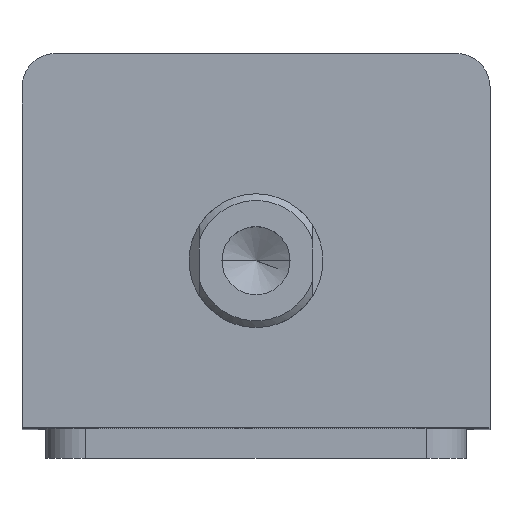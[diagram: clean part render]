
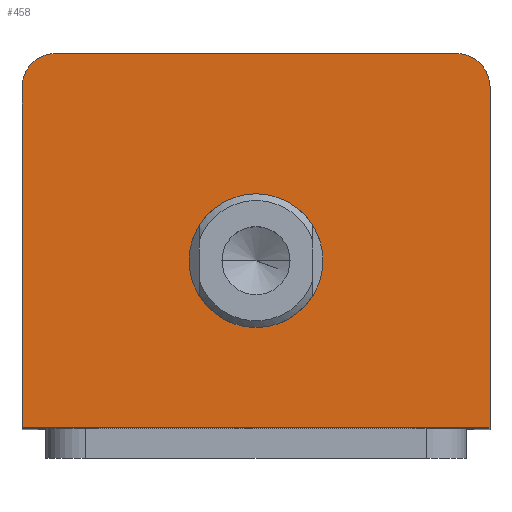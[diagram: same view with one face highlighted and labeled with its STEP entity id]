
A CAD part, top view. The second image highlights one B-rep face of the part: STEP entity #458.
In plain terms, the highlighted planar face has unit normal (0, 0, 1).
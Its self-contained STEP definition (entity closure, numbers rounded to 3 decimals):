
#26 = EDGE_CURVE ( 'NONE', #1344, #1415, #1558, .T. ) ;
#172 = CARTESIAN_POINT ( 'NONE',  ( 0., -3., 139. ) ) ;
#173 = DIRECTION ( 'NONE',  ( 0., 0., 1. ) ) ;
#174 = DIRECTION ( 'NONE',  ( 1., 0., 0. ) ) ;
#458 = ADVANCED_FACE ( 'NONE', ( #1725, #1737 ), #2660, .T. ) ;
#488 = CARTESIAN_POINT ( 'NONE',  ( -35., 23., 139. ) ) ;
#526 = CARTESIAN_POINT ( 'NONE',  ( -30., 28., 139. ) ) ;
#545 = CARTESIAN_POINT ( 'NONE',  ( 35., -28., 139. ) ) ;
#588 = CARTESIAN_POINT ( 'NONE',  ( 30., 28., 139. ) ) ;
#669 = CARTESIAN_POINT ( 'NONE',  ( 35., 23., 139. ) ) ;
#683 = CARTESIAN_POINT ( 'NONE',  ( -10., -3., 139. ) ) ;
#709 = CARTESIAN_POINT ( 'NONE',  ( -35., -28., 139. ) ) ;
#758 = LINE ( 'NONE', #2420, #763 ) ;
#763 = VECTOR ( 'NONE', #2422, 1000. ) ;
#868 = LINE ( 'NONE', #2161, #875 ) ;
#875 = VECTOR ( 'NONE', #2141, 1000. ) ;
#929 = LINE ( 'NONE', #1973, #932 ) ;
#932 = VECTOR ( 'NONE', #1971, 1000. ) ;
#1017 = EDGE_CURVE ( 'NONE', #1448, #1434, #1772, .T. ) ;
#1025 = EDGE_CURVE ( 'NONE', #1415, #1344, #1778, .T. ) ;
#1038 = EDGE_CURVE ( 'NONE', #1434, #1366, #1794, .T. ) ;
#1039 = EDGE_CURVE ( 'NONE', #1376, #1392, #1796, .T. ) ;
#1055 = AXIS2_PLACEMENT_3D ( 'NONE', #172, #173, #174 ) ;
#1067 = EDGE_CURVE ( 'NONE', #1392, #1448, #758, .T. ) ;
#1150 = EDGE_CURVE ( 'NONE', #1366, #1363, #868, .T. ) ;
#1182 = EDGE_CURVE ( 'NONE', #1363, #1376, #929, .T. ) ;
#1304 = ORIENTED_EDGE ( 'NONE', *, *, #1150, .T. ) ;
#1305 = ORIENTED_EDGE ( 'NONE', *, *, #1038, .T. ) ;
#1306 = ORIENTED_EDGE ( 'NONE', *, *, #1017, .T. ) ;
#1307 = ORIENTED_EDGE ( 'NONE', *, *, #1067, .T. ) ;
#1308 = ORIENTED_EDGE ( 'NONE', *, *, #1039, .T. ) ;
#1309 = ORIENTED_EDGE ( 'NONE', *, *, #1182, .T. ) ;
#1310 = ORIENTED_EDGE ( 'NONE', *, *, #1025, .F. ) ;
#1311 = ORIENTED_EDGE ( 'NONE', *, *, #26, .F. ) ;
#1344 = VERTEX_POINT ( 'NONE', #1821 ) ;
#1363 = VERTEX_POINT ( 'NONE', #545 ) ;
#1366 = VERTEX_POINT ( 'NONE', #709 ) ;
#1376 = VERTEX_POINT ( 'NONE', #669 ) ;
#1392 = VERTEX_POINT ( 'NONE', #588 ) ;
#1415 = VERTEX_POINT ( 'NONE', #683 ) ;
#1434 = VERTEX_POINT ( 'NONE', #488 ) ;
#1448 = VERTEX_POINT ( 'NONE', #526 ) ;
#1537 = EDGE_LOOP ( 'NONE', ( #1309, #1308, #1307, #1306, #1305, #1304 ) ) ;
#1539 = EDGE_LOOP ( 'NONE', ( #1311, #1310 ) ) ;
#1558 = CIRCLE ( 'NONE', #1055, 10. ) ;
#1725 = FACE_BOUND ( 'NONE', #1539, .T. ) ;
#1737 = FACE_OUTER_BOUND ( 'NONE', #1537, .T. ) ;
#1772 = CIRCLE ( 'NONE', #2168, 5. ) ;
#1778 = CIRCLE ( 'NONE', #2164, 10. ) ;
#1794 = LINE ( 'NONE', #2482, #1797 ) ;
#1796 = CIRCLE ( 'NONE', #2156, 5. ) ;
#1797 = VECTOR ( 'NONE', #2481, 1000. ) ;
#1821 = CARTESIAN_POINT ( 'NONE',  ( 10., -3., 139. ) ) ;
#1971 = DIRECTION ( 'NONE',  ( 0., 1., 0. ) ) ;
#1973 = CARTESIAN_POINT ( 'NONE',  ( 35., 28., 139. ) ) ;
#2141 = DIRECTION ( 'NONE',  ( 1., 0., 0. ) ) ;
#2156 = AXIS2_PLACEMENT_3D ( 'NONE', #2479, #2476, #2475 ) ;
#2161 = CARTESIAN_POINT ( 'NONE',  ( -35., -28., 139. ) ) ;
#2164 = AXIS2_PLACEMENT_3D ( 'NONE', #2517, #2516, #2513 ) ;
#2168 = AXIS2_PLACEMENT_3D ( 'NONE', #2545, #2544, #2543 ) ;
#2218 = AXIS2_PLACEMENT_3D ( 'NONE', #2664, #2658, #2657 ) ;
#2420 = CARTESIAN_POINT ( 'NONE',  ( -35., 28., 139. ) ) ;
#2422 = DIRECTION ( 'NONE',  ( -1., 0., 0. ) ) ;
#2475 = DIRECTION ( 'NONE',  ( 1., 0., 0. ) ) ;
#2476 = DIRECTION ( 'NONE',  ( 0., 0., 1. ) ) ;
#2479 = CARTESIAN_POINT ( 'NONE',  ( 30., 23., 139. ) ) ;
#2481 = DIRECTION ( 'NONE',  ( 0., -1., 0. ) ) ;
#2482 = CARTESIAN_POINT ( 'NONE',  ( -35., 28., 139. ) ) ;
#2513 = DIRECTION ( 'NONE',  ( 1., 0., 0. ) ) ;
#2516 = DIRECTION ( 'NONE',  ( 0., 0., 1. ) ) ;
#2517 = CARTESIAN_POINT ( 'NONE',  ( 0., -3., 139. ) ) ;
#2543 = DIRECTION ( 'NONE',  ( 1., 0., 0. ) ) ;
#2544 = DIRECTION ( 'NONE',  ( 0., 0., 1. ) ) ;
#2545 = CARTESIAN_POINT ( 'NONE',  ( -30., 23., 139. ) ) ;
#2657 = DIRECTION ( 'NONE',  ( 1., 0., 0. ) ) ;
#2658 = DIRECTION ( 'NONE',  ( 0., 0., 1. ) ) ;
#2660 = PLANE ( 'NONE',  #2218 ) ;
#2664 = CARTESIAN_POINT ( 'NONE',  ( 0., 0., 139. ) ) ;
